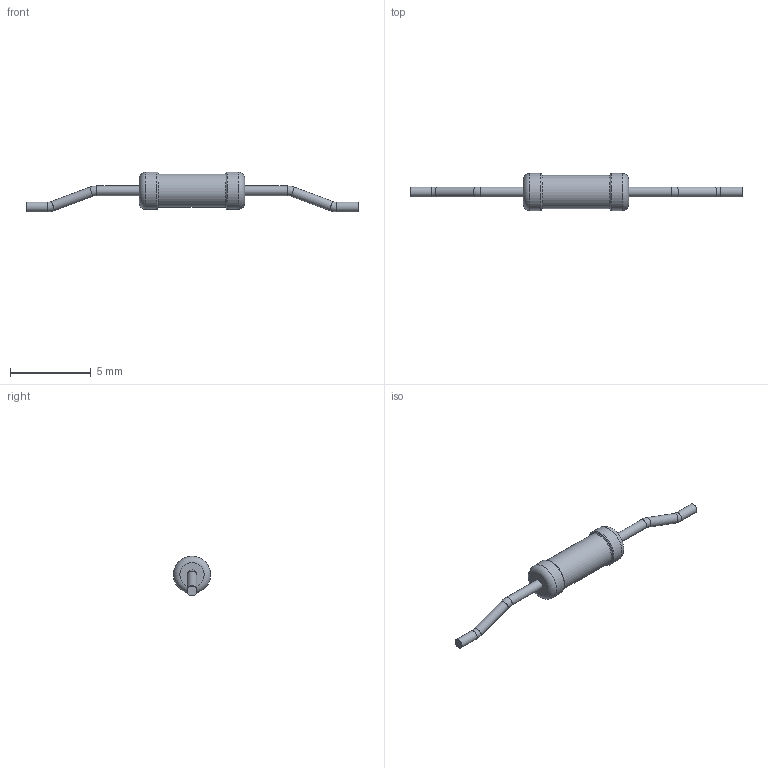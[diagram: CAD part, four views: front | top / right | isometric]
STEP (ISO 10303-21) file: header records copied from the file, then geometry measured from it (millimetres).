
FILE_DESCRIPTION(('STEP AP203'), '1');
FILE_NAME('ﾑ2-29ﾌ-0,125ﾈ(3)', '', ('UNSPECIFIED'), ('UNSPECIFIED'), 'ASCON STEP Converter 1.6', 'ASCON Math Kernel', '');
FILE_SCHEMA(('CONFIG_CONTROL_DESIGN'));
Length unit declared in the file: millimetre
Bounding box: 20.5 x 2.3 x 2.45 mm (x, y, z)
Volume: 27.1 mm3; surface area: 77.5 mm2
Topology: 1 solids, 1 shells, 25 faces, 43 edges, 24 vertices
Faces by surface type: torus 10, cylinder 9, plane 6
Full cylindrical faces by diameter (mm): 0.6 x6, 2.057 x1, 2.3 x2
Entity records: 738 total; most frequent: DIRECTION 100, CARTESIAN_POINT 74, AXIS2_PLACEMENT_3D 50, EDGE_LOOP 48, ORIENTED_EDGE 48, FACE_OUTER_BOUND 38, COLOUR_RGB 26, FILL_AREA_STYLE_COLOUR 26
